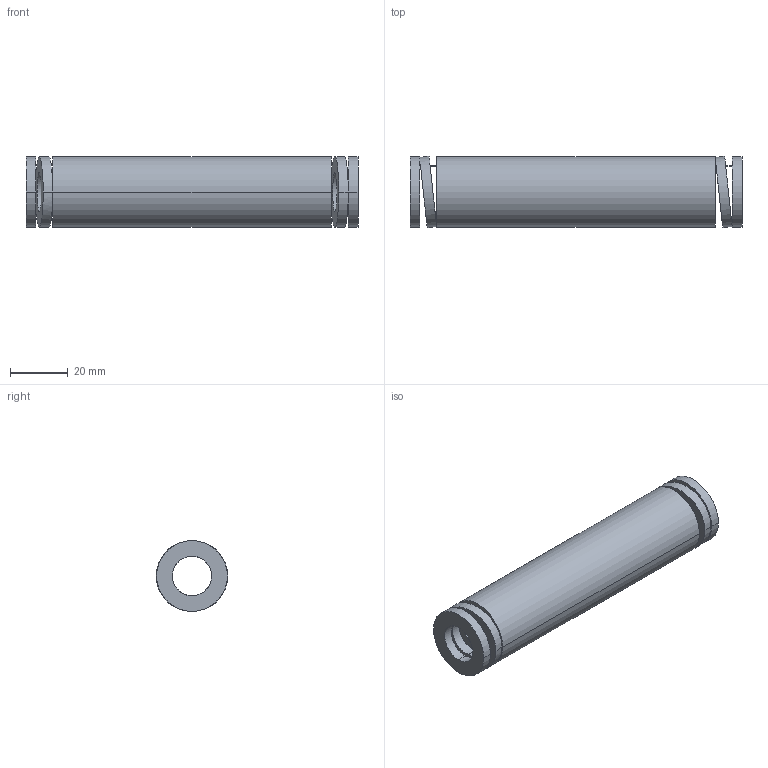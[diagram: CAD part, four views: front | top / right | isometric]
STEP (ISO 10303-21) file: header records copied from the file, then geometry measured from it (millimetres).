
FILE_DESCRIPTION(('CATIA V5 STEP Exchange'),'2;1');
FILE_NAME('C:\Users\Utente\Desktop\IO LAVORO\3D X SITO CF\X SITO\3D files 392B\392-B25-115.stp','2021-08-13T07:45:42+00:00',('none'),('none'),'CATIA Version 5 Release 20 GA (IN-10)','CATIA V5 STEP AP203','none');
FILE_SCHEMA(('CONFIG_CONTROL_DESIGN'));
Length unit declared in the file: millimetre
Products named in the file (1): 392-B25-115
Bounding box: 115 x 24.71 x 24.5 mm (x, y, z)
Volume: 35493.2 mm3; surface area: 16389.3 mm2
Topology: 1 solids, 1 shells, 38 faces, 92 edges, 64 vertices
Faces by surface type: cylinder 28, plane 10
Entity records: 1590 total; most frequent: CARTESIAN_POINT 705, ORIENTED_EDGE 184, DIRECTION 127, EDGE_CURVE 92, VERTEX_POINT 64, AXIS2_PLACEMENT_3D 62, EDGE_LOOP 56, B_SPLINE_CURVE_WITH_KNOTS 41
